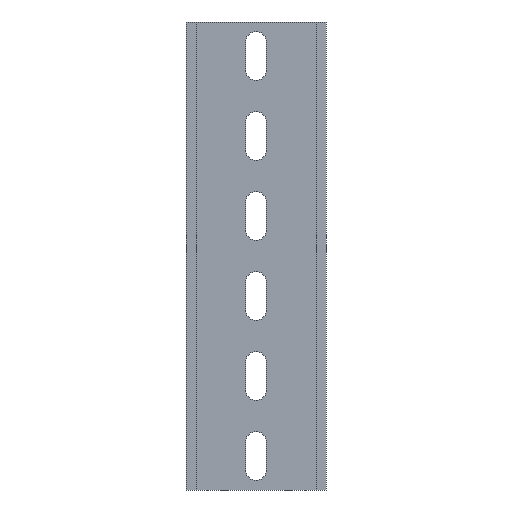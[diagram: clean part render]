
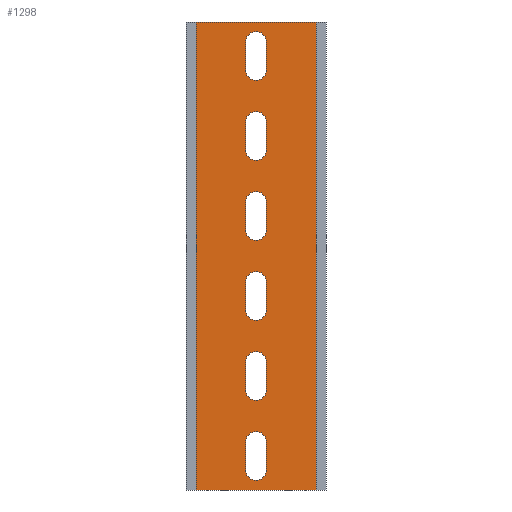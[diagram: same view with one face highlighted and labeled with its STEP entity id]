
A CAD part, front view. The second image highlights one B-rep face of the part: STEP entity #1298.
In plain terms, the highlighted planar face has unit normal (0, -1, 0).
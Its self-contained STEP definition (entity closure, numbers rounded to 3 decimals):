
#21=FACE_BOUND('',#191,.T.);
#22=FACE_BOUND('',#192,.T.);
#23=FACE_BOUND('',#193,.T.);
#24=FACE_BOUND('',#194,.T.);
#25=FACE_BOUND('',#195,.T.);
#26=FACE_BOUND('',#196,.T.);
#27=CIRCLE('',#1342,2.6);
#29=CIRCLE('',#1346,2.6);
#31=CIRCLE('',#1350,2.6);
#33=CIRCLE('',#1354,2.6);
#35=CIRCLE('',#1358,2.6);
#37=CIRCLE('',#1362,2.6);
#39=CIRCLE('',#1366,2.6);
#41=CIRCLE('',#1370,2.6);
#47=CIRCLE('',#1379,2.6);
#49=CIRCLE('',#1383,2.6);
#51=CIRCLE('',#1387,2.6);
#53=CIRCLE('',#1391,2.6);
#120=FACE_OUTER_BOUND('',#190,.T.);
#190=EDGE_LOOP('',(#1071,#1072,#1073,#1074));
#191=EDGE_LOOP('',(#1075,#1076,#1077,#1078));
#192=EDGE_LOOP('',(#1079,#1080,#1081,#1082));
#193=EDGE_LOOP('',(#1083,#1084,#1085,#1086));
#194=EDGE_LOOP('',(#1087,#1088,#1089,#1090));
#195=EDGE_LOOP('',(#1091,#1092,#1093,#1094));
#196=EDGE_LOOP('',(#1095,#1096,#1097,#1098));
#215=LINE('',#1788,#369);
#220=LINE('',#1802,#374);
#223=LINE('',#1812,#377);
#228=LINE('',#1826,#382);
#231=LINE('',#1836,#385);
#236=LINE('',#1850,#390);
#239=LINE('',#1860,#393);
#244=LINE('',#1874,#398);
#261=LINE('',#1914,#415);
#281=LINE('',#1961,#435);
#286=LINE('',#1975,#440);
#289=LINE('',#1985,#443);
#294=LINE('',#1999,#448);
#335=LINE('',#2087,#489);
#336=LINE('',#2090,#490);
#337=LINE('',#2091,#491);
#369=VECTOR('',#1440,10.);
#374=VECTOR('',#1453,10.);
#377=VECTOR('',#1464,10.);
#382=VECTOR('',#1477,10.);
#385=VECTOR('',#1488,10.);
#390=VECTOR('',#1501,10.);
#393=VECTOR('',#1512,10.);
#398=VECTOR('',#1525,10.);
#415=VECTOR('',#1552,10.);
#435=VECTOR('',#1580,10.);
#440=VECTOR('',#1593,10.);
#443=VECTOR('',#1604,10.);
#448=VECTOR('',#1617,10.);
#489=VECTOR('',#1708,10.);
#490=VECTOR('',#1711,10.);
#491=VECTOR('',#1712,10.);
#523=VERTEX_POINT('',#1786);
#524=VERTEX_POINT('',#1787);
#527=VERTEX_POINT('',#1795);
#529=VERTEX_POINT('',#1801);
#531=VERTEX_POINT('',#1810);
#532=VERTEX_POINT('',#1811);
#535=VERTEX_POINT('',#1819);
#537=VERTEX_POINT('',#1825);
#539=VERTEX_POINT('',#1834);
#540=VERTEX_POINT('',#1835);
#543=VERTEX_POINT('',#1843);
#545=VERTEX_POINT('',#1849);
#547=VERTEX_POINT('',#1858);
#548=VERTEX_POINT('',#1859);
#551=VERTEX_POINT('',#1867);
#553=VERTEX_POINT('',#1873);
#570=VERTEX_POINT('',#1911);
#571=VERTEX_POINT('',#1913);
#593=VERTEX_POINT('',#1959);
#594=VERTEX_POINT('',#1960);
#597=VERTEX_POINT('',#1968);
#599=VERTEX_POINT('',#1974);
#601=VERTEX_POINT('',#1983);
#602=VERTEX_POINT('',#1984);
#605=VERTEX_POINT('',#1992);
#607=VERTEX_POINT('',#1998);
#629=VERTEX_POINT('',#2085);
#630=VERTEX_POINT('',#2089);
#647=EDGE_CURVE('',#523,#524,#215,.T.);
#651=EDGE_CURVE('',#524,#527,#27,.T.);
#654=EDGE_CURVE('',#527,#529,#220,.T.);
#657=EDGE_CURVE('',#529,#523,#29,.T.);
#659=EDGE_CURVE('',#531,#532,#223,.T.);
#663=EDGE_CURVE('',#532,#535,#31,.T.);
#666=EDGE_CURVE('',#535,#537,#228,.T.);
#669=EDGE_CURVE('',#537,#531,#33,.T.);
#671=EDGE_CURVE('',#539,#540,#231,.T.);
#675=EDGE_CURVE('',#540,#543,#35,.T.);
#678=EDGE_CURVE('',#543,#545,#236,.T.);
#681=EDGE_CURVE('',#545,#539,#37,.T.);
#683=EDGE_CURVE('',#547,#548,#239,.T.);
#687=EDGE_CURVE('',#548,#551,#39,.T.);
#690=EDGE_CURVE('',#551,#553,#244,.T.);
#693=EDGE_CURVE('',#553,#547,#41,.T.);
#710=EDGE_CURVE('',#570,#571,#261,.T.);
#733=EDGE_CURVE('',#593,#594,#281,.T.);
#737=EDGE_CURVE('',#594,#597,#47,.T.);
#740=EDGE_CURVE('',#597,#599,#286,.T.);
#743=EDGE_CURVE('',#599,#593,#49,.T.);
#745=EDGE_CURVE('',#601,#602,#289,.T.);
#749=EDGE_CURVE('',#602,#605,#51,.T.);
#752=EDGE_CURVE('',#605,#607,#294,.T.);
#755=EDGE_CURVE('',#607,#601,#53,.T.);
#797=EDGE_CURVE('',#629,#571,#335,.T.);
#798=EDGE_CURVE('',#630,#629,#336,.T.);
#799=EDGE_CURVE('',#630,#570,#337,.T.);
#1071=ORIENTED_EDGE('',*,*,#798,.T.);
#1072=ORIENTED_EDGE('',*,*,#797,.T.);
#1073=ORIENTED_EDGE('',*,*,#710,.F.);
#1074=ORIENTED_EDGE('',*,*,#799,.F.);
#1075=ORIENTED_EDGE('',*,*,#647,.T.);
#1076=ORIENTED_EDGE('',*,*,#651,.T.);
#1077=ORIENTED_EDGE('',*,*,#654,.T.);
#1078=ORIENTED_EDGE('',*,*,#657,.T.);
#1079=ORIENTED_EDGE('',*,*,#659,.T.);
#1080=ORIENTED_EDGE('',*,*,#663,.T.);
#1081=ORIENTED_EDGE('',*,*,#666,.T.);
#1082=ORIENTED_EDGE('',*,*,#669,.T.);
#1083=ORIENTED_EDGE('',*,*,#671,.T.);
#1084=ORIENTED_EDGE('',*,*,#675,.T.);
#1085=ORIENTED_EDGE('',*,*,#678,.T.);
#1086=ORIENTED_EDGE('',*,*,#681,.T.);
#1087=ORIENTED_EDGE('',*,*,#683,.T.);
#1088=ORIENTED_EDGE('',*,*,#687,.T.);
#1089=ORIENTED_EDGE('',*,*,#690,.T.);
#1090=ORIENTED_EDGE('',*,*,#693,.T.);
#1091=ORIENTED_EDGE('',*,*,#733,.T.);
#1092=ORIENTED_EDGE('',*,*,#737,.T.);
#1093=ORIENTED_EDGE('',*,*,#740,.T.);
#1094=ORIENTED_EDGE('',*,*,#743,.T.);
#1095=ORIENTED_EDGE('',*,*,#745,.T.);
#1096=ORIENTED_EDGE('',*,*,#749,.T.);
#1097=ORIENTED_EDGE('',*,*,#752,.T.);
#1098=ORIENTED_EDGE('',*,*,#755,.T.);
#1236=PLANE('',#1415);
#1298=ADVANCED_FACE('',(#120,#21,#22,#23,#24,#25,#26),#1236,.T.);
#1342=AXIS2_PLACEMENT_3D('',#1796,#1446,#1447);
#1346=AXIS2_PLACEMENT_3D('',#1807,#1458,#1459);
#1350=AXIS2_PLACEMENT_3D('',#1820,#1470,#1471);
#1354=AXIS2_PLACEMENT_3D('',#1831,#1482,#1483);
#1358=AXIS2_PLACEMENT_3D('',#1844,#1494,#1495);
#1362=AXIS2_PLACEMENT_3D('',#1855,#1506,#1507);
#1366=AXIS2_PLACEMENT_3D('',#1868,#1518,#1519);
#1370=AXIS2_PLACEMENT_3D('',#1879,#1530,#1531);
#1379=AXIS2_PLACEMENT_3D('',#1969,#1586,#1587);
#1383=AXIS2_PLACEMENT_3D('',#1980,#1598,#1599);
#1387=AXIS2_PLACEMENT_3D('',#1993,#1610,#1611);
#1391=AXIS2_PLACEMENT_3D('',#2004,#1622,#1623);
#1415=AXIS2_PLACEMENT_3D('',#2088,#1709,#1710);
#1440=DIRECTION('',(0.,0.,-1.));
#1446=DIRECTION('center_axis',(0.,1.,0.));
#1447=DIRECTION('ref_axis',(1.,0.,0.));
#1453=DIRECTION('',(0.,0.,1.));
#1458=DIRECTION('center_axis',(0.,1.,0.));
#1459=DIRECTION('ref_axis',(-1.,0.,0.));
#1464=DIRECTION('',(0.,0.,-1.));
#1470=DIRECTION('center_axis',(0.,1.,0.));
#1471=DIRECTION('ref_axis',(1.,0.,0.));
#1477=DIRECTION('',(0.,0.,1.));
#1482=DIRECTION('center_axis',(0.,1.,0.));
#1483=DIRECTION('ref_axis',(-1.,0.,0.));
#1488=DIRECTION('',(0.,0.,-1.));
#1494=DIRECTION('center_axis',(0.,1.,0.));
#1495=DIRECTION('ref_axis',(1.,0.,0.));
#1501=DIRECTION('',(0.,0.,1.));
#1506=DIRECTION('center_axis',(0.,1.,0.));
#1507=DIRECTION('ref_axis',(-1.,0.,0.));
#1512=DIRECTION('',(0.,0.,-1.));
#1518=DIRECTION('center_axis',(0.,1.,0.));
#1519=DIRECTION('ref_axis',(1.,0.,0.));
#1525=DIRECTION('',(0.,0.,1.));
#1530=DIRECTION('center_axis',(0.,1.,0.));
#1531=DIRECTION('ref_axis',(-1.,0.,0.));
#1552=DIRECTION('',(1.,0.,0.));
#1580=DIRECTION('',(0.,0.,-1.));
#1586=DIRECTION('center_axis',(0.,1.,0.));
#1587=DIRECTION('ref_axis',(1.,0.,0.));
#1593=DIRECTION('',(0.,0.,1.));
#1598=DIRECTION('center_axis',(0.,1.,0.));
#1599=DIRECTION('ref_axis',(-1.,0.,0.));
#1604=DIRECTION('',(0.,0.,-1.));
#1610=DIRECTION('center_axis',(0.,1.,0.));
#1611=DIRECTION('ref_axis',(1.,0.,0.));
#1617=DIRECTION('',(0.,0.,1.));
#1622=DIRECTION('center_axis',(0.,1.,0.));
#1623=DIRECTION('ref_axis',(-1.,0.,0.));
#1708=DIRECTION('',(0.,0.,1.));
#1709=DIRECTION('center_axis',(0.,-1.,0.));
#1710=DIRECTION('ref_axis',(1.,0.,0.));
#1711=DIRECTION('',(1.,0.,0.));
#1712=DIRECTION('',(0.,0.,1.));
#1786=CARTESIAN_POINT('',(2.6,0.,112.));
#1787=CARTESIAN_POINT('',(2.6,0.,105.));
#1788=CARTESIAN_POINT('',(2.6,0.,52.5));
#1795=CARTESIAN_POINT('',(-2.6,0.,105.));
#1796=CARTESIAN_POINT('Origin',(0.,0.,
105.));
#1801=CARTESIAN_POINT('',(-2.6,0.,112.));
#1802=CARTESIAN_POINT('',(-2.6,0.,56.));
#1807=CARTESIAN_POINT('Origin',(0.,0.,
112.));
#1810=CARTESIAN_POINT('',(2.6,0.,92.));
#1811=CARTESIAN_POINT('',(2.6,0.,85.));
#1812=CARTESIAN_POINT('',(2.6,0.,42.5));
#1819=CARTESIAN_POINT('',(-2.6,0.,85.));
#1820=CARTESIAN_POINT('Origin',(0.,0.,
85.));
#1825=CARTESIAN_POINT('',(-2.6,0.,92.));
#1826=CARTESIAN_POINT('',(-2.6,0.,46.));
#1831=CARTESIAN_POINT('Origin',(0.,0.,
92.));
#1834=CARTESIAN_POINT('',(2.6,0.,72.));
#1835=CARTESIAN_POINT('',(2.6,0.,65.));
#1836=CARTESIAN_POINT('',(2.6,0.,32.5));
#1843=CARTESIAN_POINT('',(-2.6,0.,65.));
#1844=CARTESIAN_POINT('Origin',(0.,0.,
65.));
#1849=CARTESIAN_POINT('',(-2.6,0.,72.));
#1850=CARTESIAN_POINT('',(-2.6,0.,36.));
#1855=CARTESIAN_POINT('Origin',(0.,0.,
72.));
#1858=CARTESIAN_POINT('',(2.6,0.,52.));
#1859=CARTESIAN_POINT('',(2.6,0.,45.));
#1860=CARTESIAN_POINT('',(2.6,0.,22.5));
#1867=CARTESIAN_POINT('',(-2.6,0.,45.));
#1868=CARTESIAN_POINT('Origin',(0.,0.,
45.));
#1873=CARTESIAN_POINT('',(-2.6,0.,52.));
#1874=CARTESIAN_POINT('',(-2.6,0.,26.));
#1879=CARTESIAN_POINT('Origin',(0.,0.,
52.));
#1911=CARTESIAN_POINT('',(-15.,0.,117.));
#1913=CARTESIAN_POINT('',(15.,0.,117.));
#1914=CARTESIAN_POINT('',(-15.,0.,117.));
#1959=CARTESIAN_POINT('',(2.6,0.,32.));
#1960=CARTESIAN_POINT('',(2.6,0.,25.));
#1961=CARTESIAN_POINT('',(2.6,0.,12.5));
#1968=CARTESIAN_POINT('',(-2.6,0.,25.));
#1969=CARTESIAN_POINT('Origin',(0.,0.,
25.));
#1974=CARTESIAN_POINT('',(-2.6,0.,32.));
#1975=CARTESIAN_POINT('',(-2.6,0.,16.));
#1980=CARTESIAN_POINT('Origin',(0.,0.,
32.));
#1983=CARTESIAN_POINT('',(2.6,0.,12.));
#1984=CARTESIAN_POINT('',(2.6,0.,5.));
#1985=CARTESIAN_POINT('',(2.6,0.,2.5));
#1992=CARTESIAN_POINT('',(-2.6,0.,5.));
#1993=CARTESIAN_POINT('Origin',(0.,0.,
5.));
#1998=CARTESIAN_POINT('',(-2.6,0.,12.));
#1999=CARTESIAN_POINT('',(-2.6,0.,6.));
#2004=CARTESIAN_POINT('Origin',(0.,0.,
12.));
#2085=CARTESIAN_POINT('',(15.,0.,0.));
#2087=CARTESIAN_POINT('',(15.,0.,0.));
#2088=CARTESIAN_POINT('Origin',(-15.,0.,0.));
#2089=CARTESIAN_POINT('',(-15.,0.,0.));
#2090=CARTESIAN_POINT('',(-15.,0.,0.));
#2091=CARTESIAN_POINT('',(-15.,0.,0.));
